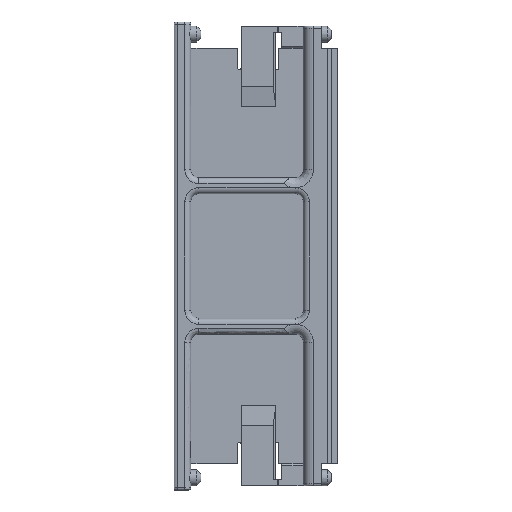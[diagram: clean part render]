
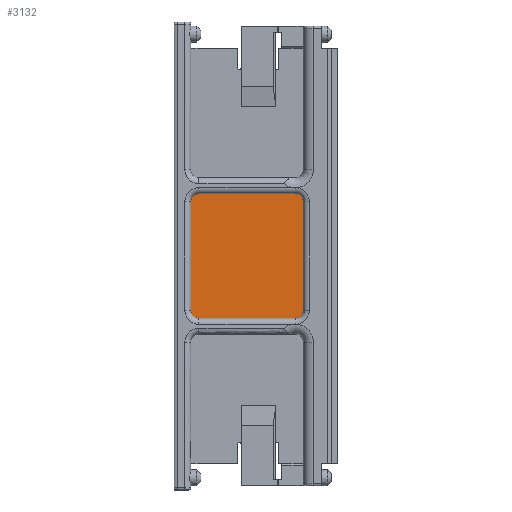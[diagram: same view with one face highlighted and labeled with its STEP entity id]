
A CAD part, front view. The second image highlights one B-rep face of the part: STEP entity #3132.
In plain terms, the highlighted planar face has unit normal (0, -1, 0).
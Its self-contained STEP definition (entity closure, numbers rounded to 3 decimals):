
#2186=CARTESIAN_POINT('',(216.961,165.997,104.8));
#2187=VERTEX_POINT('',#2186);
#2194=CARTESIAN_POINT('',(214.961,165.997,102.8));
#2195=VERTEX_POINT('',#2194);
#2196=CARTESIAN_POINT('',(214.961,165.997,104.8));
#2197=DIRECTION('',(0.0,1.0,0.0));
#2198=DIRECTION('',(1.0,0.0,0.0));
#2199=AXIS2_PLACEMENT_3D('',#2196,#2197,#2198);
#2200=CIRCLE('',#2199,2.0);
#2201=EDGE_CURVE('',#2187,#2195,#2200,.T.);
#2219=CARTESIAN_POINT('',(190.961,165.997,102.8));
#2220=VERTEX_POINT('',#2219);
#2221=CARTESIAN_POINT('',(214.961,165.997,102.8));
#2222=DIRECTION('',(-1.0,0.0,0.0));
#2223=VECTOR('',#2222,24.);
#2224=LINE('',#2221,#2223);
#2225=EDGE_CURVE('',#2195,#2220,#2224,.T.);
#2264=CARTESIAN_POINT('',(188.961,165.997,104.8));
#2265=VERTEX_POINT('',#2264);
#2266=CARTESIAN_POINT('',(190.961,165.997,104.8));
#2267=DIRECTION('',(0.0,1.0,0.0));
#2268=DIRECTION('',(0.0,0.0,-1.0));
#2269=AXIS2_PLACEMENT_3D('',#2266,#2267,#2268);
#2270=CIRCLE('',#2269,2.0);
#2271=EDGE_CURVE('',#2220,#2265,#2270,.T.);
#3070=CARTESIAN_POINT('',(188.961,165.997,131.8));
#3071=VERTEX_POINT('',#3070);
#3072=CARTESIAN_POINT('',(188.961,165.997,104.8));
#3073=DIRECTION('',(0.0,0.0,1.0));
#3074=VECTOR('',#3073,27.);
#3075=LINE('',#3072,#3074);
#3076=EDGE_CURVE('',#2265,#3071,#3075,.T.);
#3089=CARTESIAN_POINT('',(202.961,165.997,119.55));
#3090=DIRECTION('',(0.0,1.0,0.0));
#3091=DIRECTION('',(0.0,0.0,1.0));
#3092=AXIS2_PLACEMENT_3D('',#3089,#3090,#3091);
#3093=PLANE('',#3092);
#3094=CARTESIAN_POINT('',(216.961,165.997,131.8));
#3095=VERTEX_POINT('',#3094);
#3096=CARTESIAN_POINT('',(216.961,165.997,104.8));
#3097=DIRECTION('',(0.0,0.0,1.0));
#3098=VECTOR('',#3097,27.);
#3099=LINE('',#3096,#3098);
#3100=EDGE_CURVE('',#2187,#3095,#3099,.T.);
#3101=ORIENTED_EDGE('',*,*,#3100,.T.);
#3102=CARTESIAN_POINT('',(214.961,165.997,133.8));
#3103=VERTEX_POINT('',#3102);
#3104=CARTESIAN_POINT('',(214.961,165.997,131.8));
#3105=DIRECTION('',(0.0,-1.0,0.0));
#3106=DIRECTION('',(1.0,0.0,0.0));
#3107=AXIS2_PLACEMENT_3D('',#3104,#3105,#3106);
#3108=CIRCLE('',#3107,2.0);
#3109=EDGE_CURVE('',#3095,#3103,#3108,.T.);
#3110=ORIENTED_EDGE('',*,*,#3109,.T.);
#3111=CARTESIAN_POINT('',(190.961,165.997,133.8));
#3112=VERTEX_POINT('',#3111);
#3113=CARTESIAN_POINT('',(214.961,165.997,133.8));
#3114=DIRECTION('',(-1.0,0.0,0.0));
#3115=VECTOR('',#3114,24.);
#3116=LINE('',#3113,#3115);
#3117=EDGE_CURVE('',#3103,#3112,#3116,.T.);
#3118=ORIENTED_EDGE('',*,*,#3117,.T.);
#3119=CARTESIAN_POINT('',(190.961,165.997,131.8));
#3120=DIRECTION('',(0.0,-1.0,0.0));
#3121=DIRECTION('',(0.0,0.0,1.0));
#3122=AXIS2_PLACEMENT_3D('',#3119,#3120,#3121);
#3123=CIRCLE('',#3122,2.0);
#3124=EDGE_CURVE('',#3112,#3071,#3123,.T.);
#3125=ORIENTED_EDGE('',*,*,#3124,.T.);
#3126=ORIENTED_EDGE('',*,*,#3076,.F.);
#3127=ORIENTED_EDGE('',*,*,#2271,.F.);
#3128=ORIENTED_EDGE('',*,*,#2225,.F.);
#3129=ORIENTED_EDGE('',*,*,#2201,.F.);
#3130=EDGE_LOOP('',(#3101,#3110,#3118,#3125,#3126,#3127,#3128,#3129));
#3131=FACE_OUTER_BOUND('',#3130,.T.);
#3132=ADVANCED_FACE('',(#3131),#3093,.F.);
